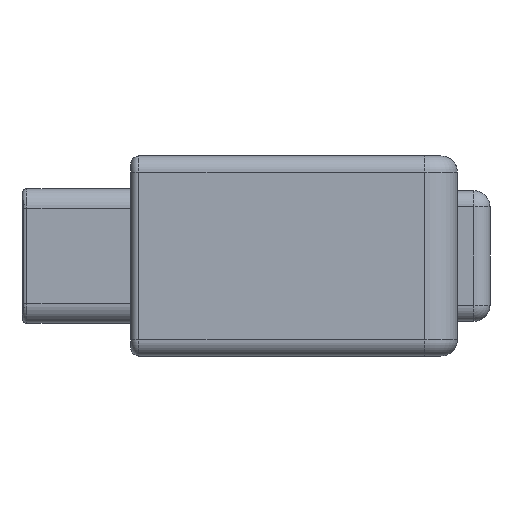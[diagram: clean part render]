
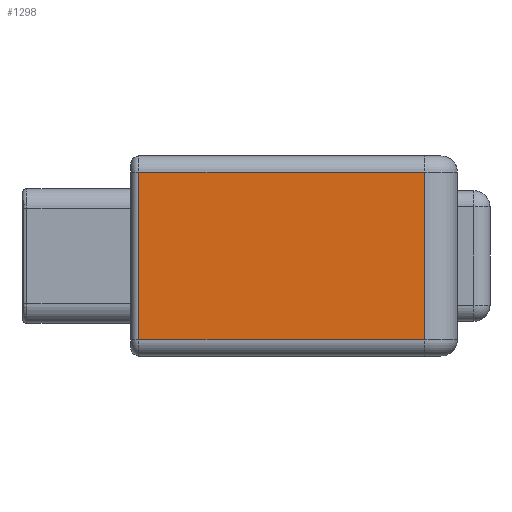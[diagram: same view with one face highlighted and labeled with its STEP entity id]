
A CAD part, front view. The second image highlights one B-rep face of the part: STEP entity #1298.
In plain terms, the highlighted planar face has unit normal (0, -1, 0).
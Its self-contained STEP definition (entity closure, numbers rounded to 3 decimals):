
#110 = VERTEX_POINT ( 'NONE', #1363 ) ;
#204 = ORIENTED_EDGE ( 'NONE', *, *, #4651, .F. ) ;
#309 = ORIENTED_EDGE ( 'NONE', *, *, #3906, .T. ) ;
#638 = CARTESIAN_POINT ( 'NONE',  ( -15.5, -118.15, 6.125 ) ) ;
#967 = LINE ( 'NONE', #6329, #6022 ) ;
#1251 = EDGE_CURVE ( 'NONE', #1335, #6783, #11128, .T. ) ;
#1298 = ADVANCED_FACE ( 'NONE', ( #4016 ), #7719, .F. ) ;
#1335 = VERTEX_POINT ( 'NONE', #5056 ) ;
#1363 = CARTESIAN_POINT ( 'NONE',  ( -15.5, -118.15, -5.125 ) ) ;
#2035 = VECTOR ( 'NONE', #5929, 1000. ) ;
#2066 = VECTOR ( 'NONE', #5440, 1000. ) ;
#2674 = CARTESIAN_POINT ( 'NONE',  ( -16., -118.15, -5.125 ) ) ;
#3160 = VECTOR ( 'NONE', #10200, 1000. ) ;
#3536 = LINE ( 'NONE', #2674, #2066 ) ;
#3906 = EDGE_CURVE ( 'NONE', #6783, #110, #9402, .T. ) ;
#4016 = FACE_OUTER_BOUND ( 'NONE', #4851, .T. ) ;
#4651 = EDGE_CURVE ( 'NONE', #1335, #4944, #967, .T. ) ;
#4851 = EDGE_LOOP ( 'NONE', ( #10907, #309, #4873, #204 ) ) ;
#4873 = ORIENTED_EDGE ( 'NONE', *, *, #7015, .T. ) ;
#4944 = VERTEX_POINT ( 'NONE', #10329 ) ;
#5056 = CARTESIAN_POINT ( 'NONE',  ( 2., -118.15, 5.125 ) ) ;
#5440 = DIRECTION ( 'NONE',  ( 1., 0., 0. ) ) ;
#5929 = DIRECTION ( 'NONE',  ( 0., 0., -1. ) ) ;
#6022 = VECTOR ( 'NONE', #10713, 1000. ) ;
#6329 = CARTESIAN_POINT ( 'NONE',  ( 2., -118.15, 6.125 ) ) ;
#6783 = VERTEX_POINT ( 'NONE', #8465 ) ;
#7015 = EDGE_CURVE ( 'NONE', #110, #4944, #3536, .T. ) ;
#7719 = PLANE ( 'NONE',  #8321 ) ;
#8321 = AXIS2_PLACEMENT_3D ( 'NONE', #9461, #11238, #8475 ) ;
#8465 = CARTESIAN_POINT ( 'NONE',  ( -15.5, -118.15, 5.125 ) ) ;
#8475 = DIRECTION ( 'NONE',  ( -1., 0., 0. ) ) ;
#9402 = LINE ( 'NONE', #638, #2035 ) ;
#9461 = CARTESIAN_POINT ( 'NONE',  ( -16., -118.15, 6.125 ) ) ;
#10200 = DIRECTION ( 'NONE',  ( -1., 0., 0. ) ) ;
#10329 = CARTESIAN_POINT ( 'NONE',  ( 2., -118.15, -5.125 ) ) ;
#10713 = DIRECTION ( 'NONE',  ( 0., 0., -1. ) ) ;
#10907 = ORIENTED_EDGE ( 'NONE', *, *, #1251, .T. ) ;
#11060 = CARTESIAN_POINT ( 'NONE',  ( -16., -118.15, 5.125 ) ) ;
#11128 = LINE ( 'NONE', #11060, #3160 ) ;
#11238 = DIRECTION ( 'NONE',  ( 0., 1., 0. ) ) ;
